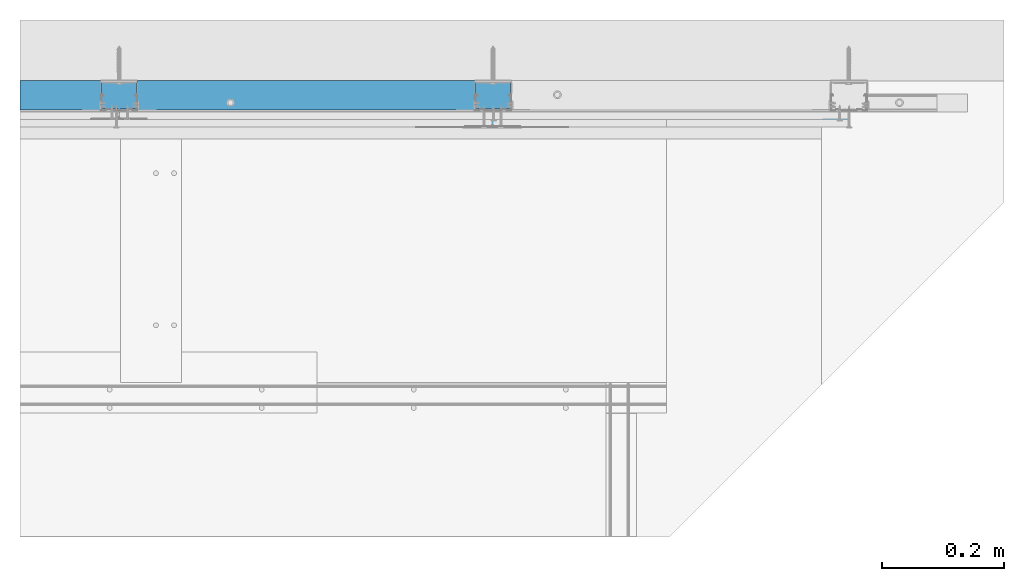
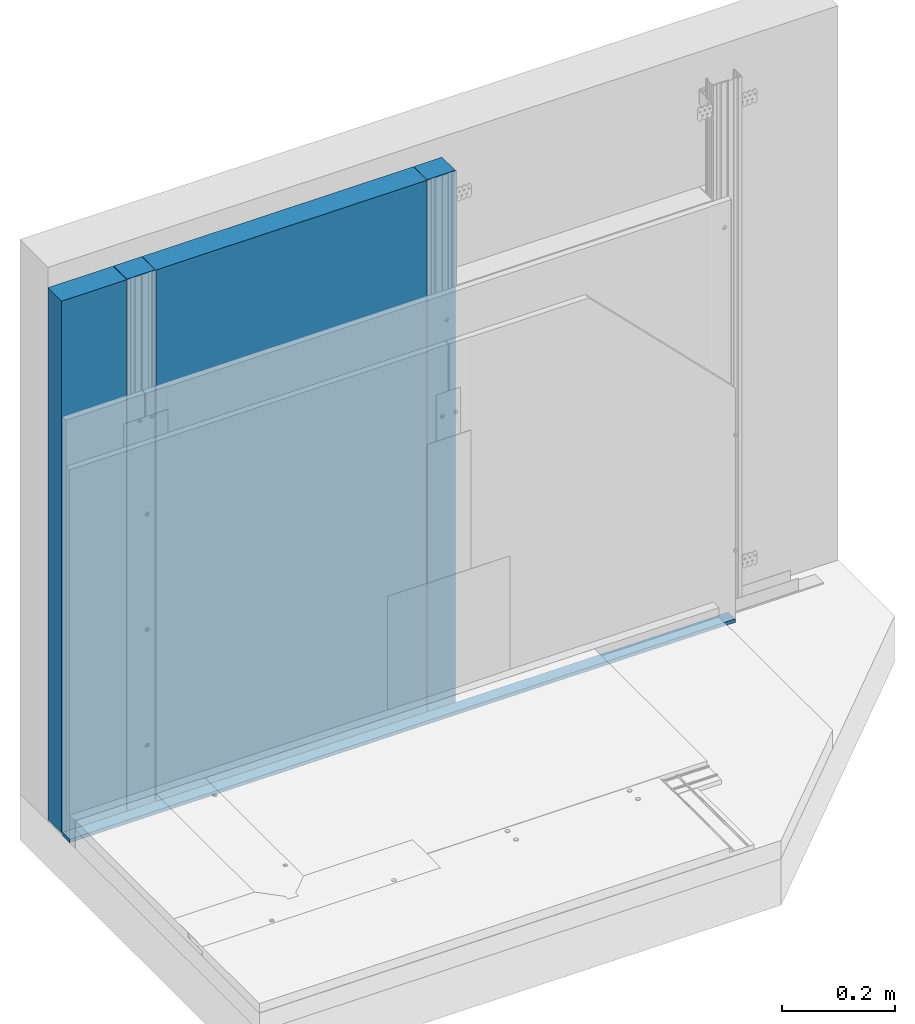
# One storey, part 16 of 47: 5 walls.
"""IFC2X3 building model written with IfcOpenShell, lengths in millimetres."""

from ifc_helpers import new_model, entity, si_unit, converted_unit, direction, frame, origin, origin_with_axes, place, context, project, spatial, faceted_brep, element, save


model = new_model("IFC2X3")

# Units and contexts
model_context = context("Model", 3, precision=1e-05, world=origin(), true_north=direction((0.0, 1.0, 0.0)))
ifc_project = project(units=[si_unit("LENGTHUNIT", "METRE", prefix="MILLI"), si_unit("AREAUNIT", "SQUARE_METRE"), si_unit("VOLUMEUNIT", "CUBIC_METRE"), converted_unit("PLANEANGLEUNIT", "DEGREE", entity("IfcPlaneAngleMeasure", 0.01745), si_unit("PLANEANGLEUNIT", "RADIAN"), dimensions=[0, 0, 0, 0, 0, 0, 0]), si_unit("SOLIDANGLEUNIT", "STERADIAN"), si_unit("MASSUNIT", "GRAM"), si_unit("TIMEUNIT", "SECOND"), si_unit("THERMODYNAMICTEMPERATUREUNIT", "DEGREE_CELSIUS"), si_unit("LUMINOUSINTENSITYUNIT", "LUMEN")], contexts=[model_context])

# Site, building, storey
site_placement = place(None, origin_with_axes())
site = spatial("IfcSite", under=ifc_project, at=site_placement, Name="Default Site", CompositionType="ELEMENT")
building_placement = place(site_placement, origin_with_axes())
building = spatial("IfcBuilding", under=site, at=building_placement, Name="Default Building", CompositionType="ELEMENT")
storey_placement = place(building_placement, origin_with_axes())
storey = spatial("IfcBuildingStorey", under=building, at=storey_placement, Name="Default Building Storey", CompositionType="ELEMENT", Elevation=0.0)

# Walls
for number, where, z_axis, x_axis, name in (
    (1, (2706.06230676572, 5350.424146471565, -1.543597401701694), (0.0, 0.0, 1.0), (-1.0, 4.718447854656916e-16, 0.0), "Wypełnienie wełny mineralnej szklanej lub skalnej ISOVER"),
    (2, (2091.149783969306, 5350.424146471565, -1.543597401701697), (0.0, 0.0, 1.0), (-1.0, 4.718447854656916e-16, 0.0), "Wypełnienie wełny mineralnej szklanej lub skalnej ISOVER"),
):
    element("IfcWall", number, at=place(storey_placement, frame(where, z_axis=z_axis, x_axis=x_axis)), inside=storey, Name=name, context=model_context, shape_type="Brep", body=[
        faceted_brep([(-168.1247796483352, 3327.645535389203, 7.899999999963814), (-168.1247796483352, 3327.645535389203, 1159.73402578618), (-225.8247796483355, 3327.645535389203, 1159.73402578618), (-225.8247796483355, 3327.645535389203, 7.899999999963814), (-168.1247796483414, 3370.612995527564, 7.899999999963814), (-168.1247796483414, 3370.612995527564, 1159.73402578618), (-225.8247796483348, 3374.8332237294, 1159.73402578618), (-168.1247796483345, 3374.833223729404, 1159.73402578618), (-168.1247796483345, 3374.833223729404, 7.899999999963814), (-225.8247796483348, 3374.8332237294, 7.899999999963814)], [[[0, 1, 2, 3]], [[0, 4, 5, 1]], [[6, 7, 8, 9]], [[2, 6, 9, 3]], [[8, 4, 0, 3, 9]], [[6, 2, 1, 5, 7]], [[5, 4, 8, 7]]]),
    ])
wall_1_placement = place(storey_placement, frame((2022.148643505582, 5350.424146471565, -1.543597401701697), z_axis=(0.0, 0.0, 1.0), x_axis=(-1.0, 4.718447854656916e-16, 0.0)))
element("IfcWall", 3, at=wall_1_placement, inside=storey, Name="Wypełnienie wełny mineralnej szklanej lub skalnej ISOVER", context=model_context, shape_type="Brep", body=[
    faceted_brep([(-102.8764899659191, 3327.645535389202, 7.899999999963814), (-102.8764899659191, 3327.645535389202, 1159.73402578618), (-236.0028390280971, 3327.645535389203, 1159.73402578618), (-236.0028390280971, 3327.645535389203, 7.899999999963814), (-236.0028390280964, 3376.283223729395, 1159.73402578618), (-102.8764899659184, 3376.283223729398, 1159.73402578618), (-102.8764899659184, 3376.283223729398, 7.899999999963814), (-236.0028390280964, 3376.283223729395, 7.899999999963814)], [[[0, 1, 2, 3]], [[4, 5, 6, 7]], [[2, 4, 7, 3]], [[6, 0, 3, 7]], [[4, 2, 1, 5]], [[5, 1, 0, 6]]]),
])
wall_2_placement = place(storey_placement, frame((2184.912306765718, 5350.424146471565, -1.543597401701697), z_axis=(0.0, 0.0, 1.0), x_axis=(-1.0, 4.718447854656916e-16, 0.0)))
element("IfcWall", 4, at=wall_2_placement, inside=storey, Name="Wypełnienie wełny mineralnej szklanej lub skalnej ISOVER", context=model_context, shape_type="Brep", body=[
    faceted_brep([(-133.2122568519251, 3327.645535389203, 7.899999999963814), (-133.2122568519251, 3327.645535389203, 1159.73402578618), (-688.1247796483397, 3327.645535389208, 1159.73402578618), (-688.1247796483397, 3327.645535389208, 7.899999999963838), (-688.124779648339, 3376.283223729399, 1159.73402578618), (-133.2122568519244, 3376.283223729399, 1159.73402578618), (-133.2122568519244, 3376.283223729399, 7.899999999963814), (-688.124779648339, 3376.283223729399, 7.899999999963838)], [[[0, 1, 2, 3]], [[4, 5, 6, 7]], [[2, 4, 7, 3]], [[6, 0, 3, 7]], [[4, 2, 1, 5]], [[5, 1, 0, 6]]]),
])
wall_3_placement = place(storey_placement, frame((3488.429648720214, 1946.180077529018, 2.384025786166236), z_axis=(0.0, 0.0, 1.0), x_axis=(1.0, 0.0, 0.0)))
element("IfcWall", 5, at=wall_3_placement, inside=storey, Name="Dedykowana masa szpachlowa Rigips - konstrukcyjna", context=model_context, shape_type="Brep", body=[
    faceted_brep([(0.0, 24.6461696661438, 0.0), (0.0, 0.0, 3.524958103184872e-16), (-1363.404515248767, 0.0, 3.524958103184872e-16), (-1363.404515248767, 24.6461696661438, 0.0), (0.0, 0.0, 7.614392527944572), (-1363.404515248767, 0.0, 7.614392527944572), (0.0, 24.6461696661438, 7.614392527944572), (-1363.404515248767, 24.6461696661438, 7.614392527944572)], [[[0, 1, 2, 3]], [[1, 4, 5, 2]], [[4, 6, 7, 5]], [[6, 0, 3, 7]], [[7, 3, 2, 5]], [[0, 6, 4, 1]]]),
])

save(model, "model.ifc")
